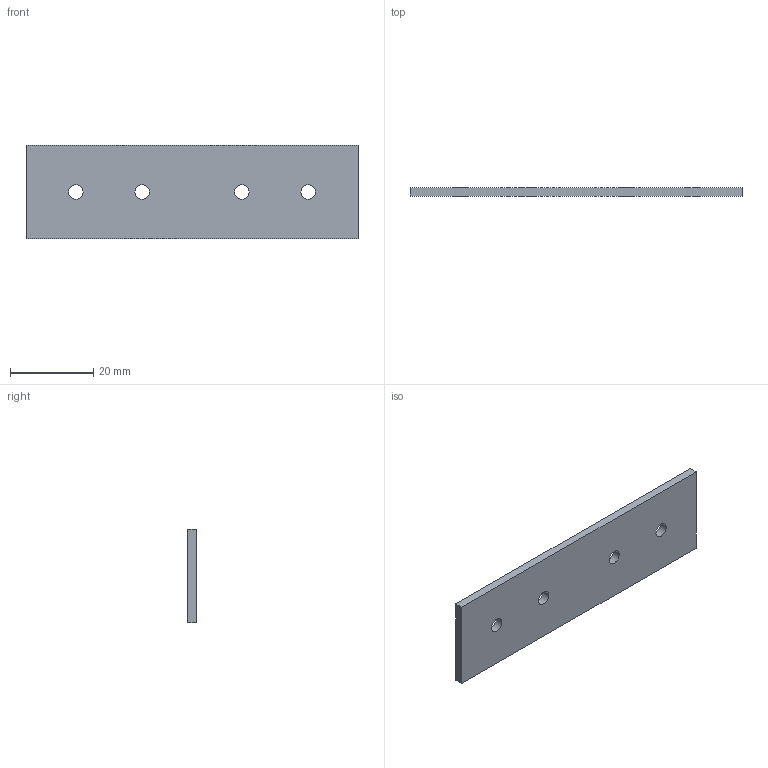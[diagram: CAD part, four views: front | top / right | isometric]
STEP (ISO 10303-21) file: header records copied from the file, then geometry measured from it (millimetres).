
FILE_DESCRIPTION((''),'2;1');
FILE_NAME('410029','2023-06-21T',('Administrator'),(''),'PRO/ENGINEER BY PARAMETRIC TECHNOLOGY CORPORATION, 2015070','PRO/ENGINEER BY PARAMETRIC TECHNOLOGY CORPORATION, 2015070','');
FILE_SCHEMA(('CONFIG_CONTROL_DESIGN','SHAPE_APPEARANCE_LAYERS_GROUPS'));
Length unit declared in the file: millimetre
Products named in the file (1): 410029
Bounding box: 80 x 2 x 22.5 mm (x, y, z)
Volume: 3523 mm3; surface area: 4021 mm2
Topology: 1 solids, 1 shells, 14 faces, 36 edges, 24 vertices
Faces by surface type: cylinder 8, plane 6
Entity records: 786 total; most frequent: COLOUR_RGB 290, DIRECTION 80, CARTESIAN_POINT 74, ORIENTED_EDGE 72, EDGE_CURVE 36, AXIS2_PLACEMENT_3D 30, VERTEX_POINT 24, EDGE_LOOP 22
